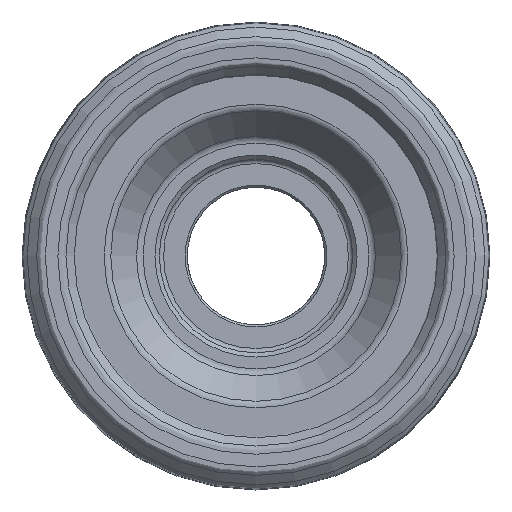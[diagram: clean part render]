
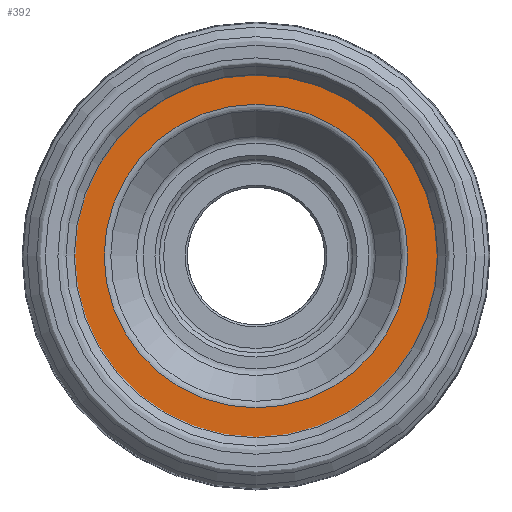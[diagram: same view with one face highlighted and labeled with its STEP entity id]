
A CAD part, left-side view. The second image highlights one B-rep face of the part: STEP entity #392.
In plain terms, the highlighted planar face has unit normal (-1, 0, 0).
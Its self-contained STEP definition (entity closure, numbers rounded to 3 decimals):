
#392=ADVANCED_FACE('',(#483,#484),#451,.T.);
#451=PLANE('',#1169);
#483=FACE_BOUND('',#575,.T.);
#484=FACE_BOUND('',#576,.T.);
#575=EDGE_LOOP('',(#710));
#576=EDGE_LOOP('',(#711));
#710=ORIENTED_EDGE('',*,*,#1003,.T.);
#711=ORIENTED_EDGE('',*,*,#1004,.T.);
#916=VERTEX_POINT('',#1690);
#917=VERTEX_POINT('',#1692);
#1003=EDGE_CURVE('',#916,#916,#1094,.T.);
#1004=EDGE_CURVE('',#917,#917,#1095,.T.);
#1094=CIRCLE('',#1167,43.932);
#1095=CIRCLE('',#1168,35.315);
#1167=AXIS2_PLACEMENT_3D('',#1689,#1333,#1334);
#1168=AXIS2_PLACEMENT_3D('',#1691,#1335,#1336);
#1169=AXIS2_PLACEMENT_3D('',#1693,#1337,#1338);
#1333=DIRECTION('',(-1.,0.,0.));
#1334=DIRECTION('',(0.,0.,1.));
#1335=DIRECTION('',(1.,0.,0.));
#1336=DIRECTION('',(0.,0.,1.));
#1337=DIRECTION('',(-1.,0.,0.));
#1338=DIRECTION('',(0.,0.,-1.));
#1689=CARTESIAN_POINT('',(3.447,0.,0.));
#1690=CARTESIAN_POINT('',(3.447,0.,43.932));
#1691=CARTESIAN_POINT('',(3.447,0.,0.));
#1692=CARTESIAN_POINT('',(3.447,0.,35.315));
#1693=CARTESIAN_POINT('',(3.447,-44.383,0.));
